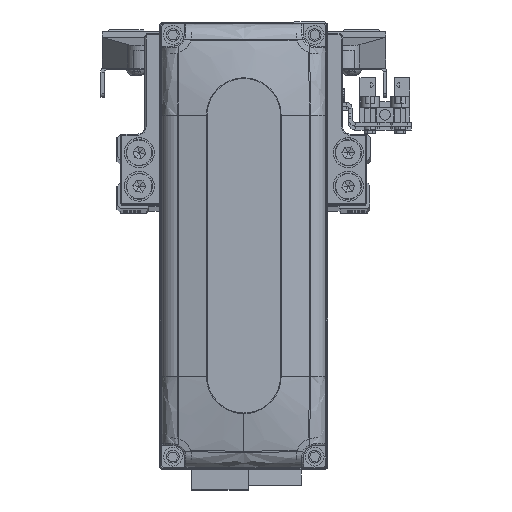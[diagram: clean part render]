
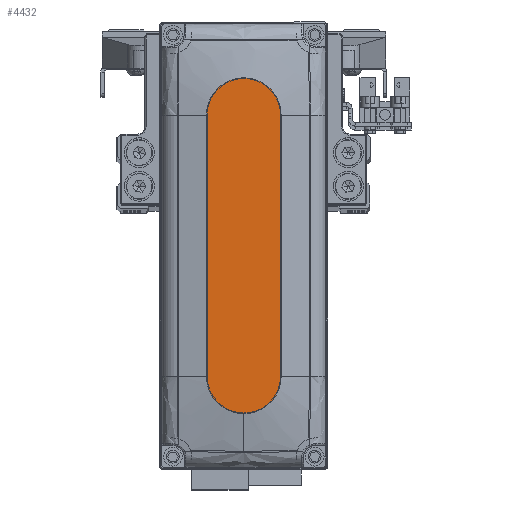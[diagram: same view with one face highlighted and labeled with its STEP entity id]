
A CAD part, top view. The second image highlights one B-rep face of the part: STEP entity #4432.
In plain terms, the highlighted planar face has unit normal (0, 0, 1).
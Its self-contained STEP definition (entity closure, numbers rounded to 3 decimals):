
#3459 = VECTOR ( 'NONE', #21168, 1000. ) ;
#3500 = DIRECTION ( 'NONE',  ( 0., 0., 1. ) ) ;
#3557 = DIRECTION ( 'NONE',  ( 0., 0., 1. ) ) ;
#3702 = ORIENTED_EDGE ( 'NONE', *, *, #38262, .T. ) ;
#4432 = ADVANCED_FACE ( 'NONE', ( #40207 ), #8477, .T. ) ;
#4988 = DIRECTION ( 'NONE',  ( 1., 0., 0. ) ) ;
#5627 = CIRCLE ( 'NONE', #11566, 10. ) ;
#7036 = CARTESIAN_POINT ( 'NONE',  ( -35., 10., 28. ) ) ;
#8477 = PLANE ( 'NONE',  #14127 ) ;
#11465 = CIRCLE ( 'NONE', #37326, 10. ) ;
#11481 = VERTEX_POINT ( 'NONE', #40387 ) ;
#11566 = AXIS2_PLACEMENT_3D ( 'NONE', #29862, #43981, #12237 ) ;
#12237 = DIRECTION ( 'NONE',  ( 1., 0., 0. ) ) ;
#14127 = AXIS2_PLACEMENT_3D ( 'NONE', #22619, #36714, #4988 ) ;
#16052 = LINE ( 'NONE', #30182, #17414 ) ;
#16288 = CARTESIAN_POINT ( 'NONE',  ( 35., 10., 28. ) ) ;
#17414 = VECTOR ( 'NONE', #44306, 1000. ) ;
#17625 = DIRECTION ( 'NONE',  ( 1., 0., 0. ) ) ;
#17637 = ORIENTED_EDGE ( 'NONE', *, *, #20807, .T. ) ;
#17681 = DIRECTION ( 'NONE',  ( 1., 0., 0. ) ) ;
#20611 = VERTEX_POINT ( 'NONE', #26504 ) ;
#20669 = CARTESIAN_POINT ( 'NONE',  ( 45., 0., 28. ) ) ;
#20807 = EDGE_CURVE ( 'NONE', #45030, #30447, #45250, .T. ) ;
#21168 = DIRECTION ( 'NONE',  ( -1., 0., 0. ) ) ;
#21751 = ORIENTED_EDGE ( 'NONE', *, *, #34059, .T. ) ;
#22061 = EDGE_CURVE ( 'NONE', #30447, #20611, #38750, .T. ) ;
#22619 = CARTESIAN_POINT ( 'NONE',  ( 0., 0., 28. ) ) ;
#25828 = CARTESIAN_POINT ( 'NONE',  ( 35., -10., 28. ) ) ;
#26504 = CARTESIAN_POINT ( 'NONE',  ( -35., 10., 28. ) ) ;
#29862 = CARTESIAN_POINT ( 'NONE',  ( -35., 0., 28. ) ) ;
#30182 = CARTESIAN_POINT ( 'NONE',  ( -35., -10., 28. ) ) ;
#30447 = VERTEX_POINT ( 'NONE', #16288 ) ;
#31206 = AXIS2_PLACEMENT_3D ( 'NONE', #35271, #3557, #17681 ) ;
#31338 = ORIENTED_EDGE ( 'NONE', *, *, #33198, .T. ) ;
#33198 = EDGE_CURVE ( 'NONE', #11481, #37426, #16052, .T. ) ;
#34059 = EDGE_CURVE ( 'NONE', #20611, #11481, #5627, .T. ) ;
#35216 = CARTESIAN_POINT ( 'NONE',  ( 35., 0., 28. ) ) ;
#35271 = CARTESIAN_POINT ( 'NONE',  ( 35., 0., 28. ) ) ;
#36714 = DIRECTION ( 'NONE',  ( 0., 0., 1. ) ) ;
#37173 = ORIENTED_EDGE ( 'NONE', *, *, #22061, .T. ) ;
#37326 = AXIS2_PLACEMENT_3D ( 'NONE', #35216, #3500, #17625 ) ;
#37426 = VERTEX_POINT ( 'NONE', #25828 ) ;
#38262 = EDGE_CURVE ( 'NONE', #37426, #45030, #11465, .T. ) ;
#38750 = LINE ( 'NONE', #7036, #3459 ) ;
#40207 = FACE_OUTER_BOUND ( 'NONE', #43328, .T. ) ;
#40387 = CARTESIAN_POINT ( 'NONE',  ( -35., -10., 28. ) ) ;
#43328 = EDGE_LOOP ( 'NONE', ( #37173, #21751, #31338, #3702, #17637 ) ) ;
#43981 = DIRECTION ( 'NONE',  ( 0., 0., 1. ) ) ;
#44306 = DIRECTION ( 'NONE',  ( 1., 0., 0. ) ) ;
#45030 = VERTEX_POINT ( 'NONE', #20669 ) ;
#45250 = CIRCLE ( 'NONE', #31206, 10. ) ;
